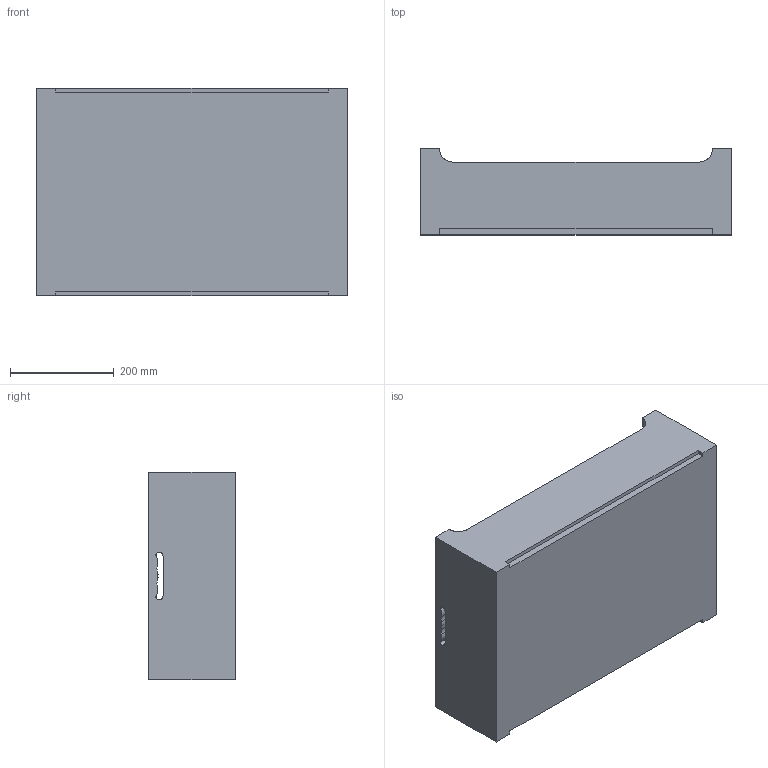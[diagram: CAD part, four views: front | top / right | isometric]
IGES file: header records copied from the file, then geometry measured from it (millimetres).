
Start section: SolidWorks IGES file using analytic representation for surfaces
Global section: file name: C:\Users\bconder\Documents\Production Models\MacroTotes\5FV\5FV Block Model.IGS; native system: SolidWorks 2013; preprocessor: SolidWorks 2013; author: bconder; date: 130603.105248; units: inch
Bounding box: 599.95 x 165.61 x 400.05 mm (x, y, z)
Surface area: 1059557.8 mm2 (no closed solid volume)
Topology: 0 solids, 0 shells, 60 faces, 612 edges, 612 vertices
Faces by surface type: bspline 32, revolution 28
